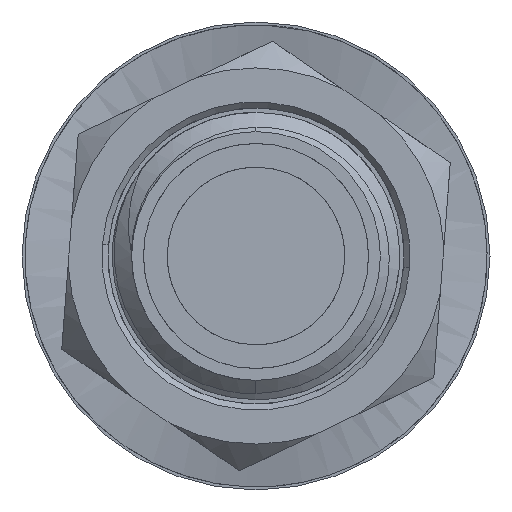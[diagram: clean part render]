
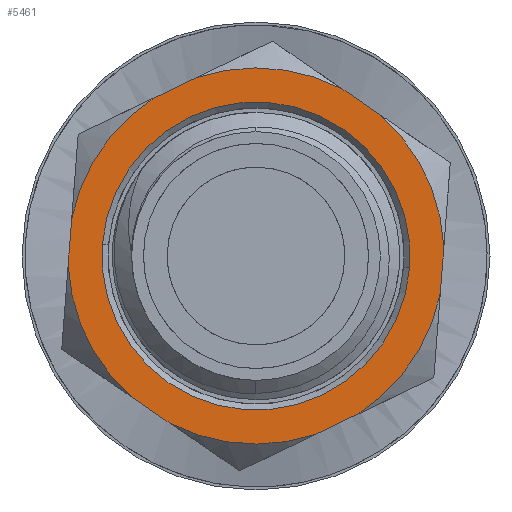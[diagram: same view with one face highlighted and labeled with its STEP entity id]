
A CAD part, front view. The second image highlights one B-rep face of the part: STEP entity #5461.
In plain terms, the highlighted planar face has unit normal (0, -1, 0) as drawn and (0, 0, -1) by its records, which use the part's own axes.
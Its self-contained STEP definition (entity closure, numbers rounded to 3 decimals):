
#77 = CARTESIAN_POINT ( 'NONE',  ( -1.919, 2.529, 0. ) ) ;
#109 = VERTEX_POINT ( 'NONE', #3463 ) ;
#121 = CARTESIAN_POINT ( 'NONE',  ( 0., 0., 0. ) ) ;
#129 = AXIS2_PLACEMENT_3D ( 'NONE', #752, #5970, #2398 ) ;
#260 = DIRECTION ( 'NONE',  ( 0., 0., 1. ) ) ;
#296 = CIRCLE ( 'NONE', #2696, 3.175 ) ;
#329 = DIRECTION ( 'NONE',  ( 1., 0., 0. ) ) ;
#356 = DIRECTION ( 'NONE',  ( 0., 0., -1. ) ) ;
#418 = VECTOR ( 'NONE', #5160, 1000. ) ;
#466 = CARTESIAN_POINT ( 'NONE',  ( 1.919, -2.529, 0. ) ) ;
#511 = ORIENTED_EDGE ( 'NONE', *, *, #2969, .F. ) ;
#544 = AXIS2_PLACEMENT_3D ( 'NONE', #3622, #1549, #2101 ) ;
#564 = CARTESIAN_POINT ( 'NONE',  ( -3.15, 1.819, 0. ) ) ;
#578 = PLANE ( 'NONE',  #4270 ) ;
#597 = CARTESIAN_POINT ( 'NONE',  ( 3.15, -1.819, 0. ) ) ;
#618 = EDGE_CURVE ( 'NONE', #5789, #2046, #4011, .T. ) ;
#752 = CARTESIAN_POINT ( 'NONE',  ( 0., 0., 0. ) ) ;
#795 = VERTEX_POINT ( 'NONE', #5455 ) ;
#866 = ORIENTED_EDGE ( 'NONE', *, *, #4825, .T. ) ;
#989 = LINE ( 'NONE', #3195, #4389 ) ;
#994 = DIRECTION ( 'NONE',  ( 0., -1., 0. ) ) ;
#1006 = FACE_OUTER_BOUND ( 'NONE', #5714, .T. ) ;
#1010 = ORIENTED_EDGE ( 'NONE', *, *, #4947, .T. ) ;
#1078 = DIRECTION ( 'NONE',  ( 1., 0., 0. ) ) ;
#1093 = DIRECTION ( 'NONE',  ( 0., 0., -1. ) ) ;
#1118 = EDGE_CURVE ( 'NONE', #6015, #795, #4774, .T. ) ;
#1187 = CARTESIAN_POINT ( 'NONE',  ( 0., 0., 0. ) ) ;
#1230 = DIRECTION ( 'NONE',  ( 1., 0., 0. ) ) ;
#1258 = EDGE_CURVE ( 'NONE', #109, #1301, #3033, .T. ) ;
#1301 = VERTEX_POINT ( 'NONE', #466 ) ;
#1482 = DIRECTION ( 'NONE',  ( 0.866, -0.5, 0. ) ) ;
#1527 = EDGE_CURVE ( 'NONE', #5735, #6500, #296, .T. ) ;
#1549 = DIRECTION ( 'NONE',  ( 0., 0., -1. ) ) ;
#1578 = LINE ( 'NONE', #564, #5962 ) ;
#1613 = CIRCLE ( 'NONE', #6289, 3.175 ) ;
#1688 = VERTEX_POINT ( 'NONE', #3927 ) ;
#1737 = EDGE_CURVE ( 'NONE', #2573, #6640, #1578, .T. ) ;
#1744 = EDGE_CURVE ( 'NONE', #109, #2046, #5229, .T. ) ;
#1774 = CARTESIAN_POINT ( 'NONE',  ( 0., 0., 0. ) ) ;
#1841 = CARTESIAN_POINT ( 'NONE',  ( -1.919, -2.529, 0. ) ) ;
#1911 = DIRECTION ( 'NONE',  ( -0.866, 0.5, 0. ) ) ;
#2027 = VERTEX_POINT ( 'NONE', #77 ) ;
#2031 = EDGE_CURVE ( 'NONE', #3176, #1688, #1613, .T. ) ;
#2039 = LINE ( 'NONE', #4603, #2730 ) ;
#2046 = VERTEX_POINT ( 'NONE', #2533 ) ;
#2101 = DIRECTION ( 'NONE',  ( 1., 0., 0. ) ) ;
#2179 = DIRECTION ( 'NONE',  ( 0., 0., 1. ) ) ;
#2198 = DIRECTION ( 'NONE',  ( 0., 0., -1. ) ) ;
#2320 = ORIENTED_EDGE ( 'NONE', *, *, #1118, .T. ) ;
#2398 = DIRECTION ( 'NONE',  ( 1., 0., 0. ) ) ;
#2407 = VERTEX_POINT ( 'NONE', #1841 ) ;
#2533 = CARTESIAN_POINT ( 'NONE',  ( 3.15, 0.398, 0. ) ) ;
#2573 = VERTEX_POINT ( 'NONE', #3673 ) ;
#2630 = CIRCLE ( 'NONE', #129, 2.6 ) ;
#2661 = DIRECTION ( 'NONE',  ( 1., 0., 0. ) ) ;
#2696 = AXIS2_PLACEMENT_3D ( 'NONE', #6587, #356, #3519 ) ;
#2730 = VECTOR ( 'NONE', #4016, 1000. ) ;
#2779 = CARTESIAN_POINT ( 'NONE',  ( -1.231, 2.927, 0. ) ) ;
#2817 = CARTESIAN_POINT ( 'NONE',  ( -3.15, -0.398, 0. ) ) ;
#2969 = EDGE_CURVE ( 'NONE', #2407, #1688, #6257, .T. ) ;
#2971 = ORIENTED_EDGE ( 'NONE', *, *, #4285, .F. ) ;
#2996 = CARTESIAN_POINT ( 'NONE',  ( 3.15, 1.819, 0. ) ) ;
#3033 = CIRCLE ( 'NONE', #6075, 3.175 ) ;
#3094 = FACE_BOUND ( 'NONE', #6062, .T. ) ;
#3176 = VERTEX_POINT ( 'NONE', #5299 ) ;
#3195 = CARTESIAN_POINT ( 'NONE',  ( 0., -3.637, 0. ) ) ;
#3237 = AXIS2_PLACEMENT_3D ( 'NONE', #1774, #2198, #3721 ) ;
#3316 = EDGE_CURVE ( 'NONE', #2573, #2027, #4027, .T. ) ;
#3463 = CARTESIAN_POINT ( 'NONE',  ( 3.15, -0.398, 0. ) ) ;
#3519 = DIRECTION ( 'NONE',  ( 1., 0., 0. ) ) ;
#3622 = CARTESIAN_POINT ( 'NONE',  ( 0., 0., 0. ) ) ;
#3666 = CARTESIAN_POINT ( 'NONE',  ( 0., 3.637, 0. ) ) ;
#3673 = CARTESIAN_POINT ( 'NONE',  ( -3.15, 0.398, 0. ) ) ;
#3721 = DIRECTION ( 'NONE',  ( 1., 0., 0. ) ) ;
#3816 = CARTESIAN_POINT ( 'NONE',  ( -2.6, 0., 0. ) ) ;
#3901 = DIRECTION ( 'NONE',  ( 1., 0., 0. ) ) ;
#3927 = CARTESIAN_POINT ( 'NONE',  ( -1.231, -2.927, 0. ) ) ;
#3936 = ORIENTED_EDGE ( 'NONE', *, *, #1527, .T. ) ;
#4011 = CIRCLE ( 'NONE', #3237, 3.175 ) ;
#4016 = DIRECTION ( 'NONE',  ( -0.866, -0.5, 0. ) ) ;
#4027 = CIRCLE ( 'NONE', #544, 3.175 ) ;
#4061 = LINE ( 'NONE', #2996, #6530 ) ;
#4086 = CARTESIAN_POINT ( 'NONE',  ( 0., 0., 0. ) ) ;
#4215 = ORIENTED_EDGE ( 'NONE', *, *, #1737, .F. ) ;
#4270 = AXIS2_PLACEMENT_3D ( 'NONE', #3666, #2179, #1078 ) ;
#4285 = EDGE_CURVE ( 'NONE', #5789, #6500, #4061, .T. ) ;
#4320 = ORIENTED_EDGE ( 'NONE', *, *, #1258, .T. ) ;
#4389 = VECTOR ( 'NONE', #5872, 1000. ) ;
#4471 = ORIENTED_EDGE ( 'NONE', *, *, #3316, .T. ) ;
#4603 = CARTESIAN_POINT ( 'NONE',  ( 0., 3.637, 0. ) ) ;
#4643 = CARTESIAN_POINT ( 'NONE',  ( 0., 0., 0. ) ) ;
#4676 = VECTOR ( 'NONE', #1482, 1000. ) ;
#4774 = CIRCLE ( 'NONE', #6621, 2.6 ) ;
#4825 = EDGE_CURVE ( 'NONE', #2407, #6640, #6317, .T. ) ;
#4928 = ORIENTED_EDGE ( 'NONE', *, *, #1744, .F. ) ;
#4947 = EDGE_CURVE ( 'NONE', #795, #6015, #2630, .T. ) ;
#4998 = DIRECTION ( 'NONE',  ( 0., 0., -1. ) ) ;
#5160 = DIRECTION ( 'NONE',  ( 0., 1., 0. ) ) ;
#5229 = LINE ( 'NONE', #597, #418 ) ;
#5276 = EDGE_CURVE ( 'NONE', #5735, #2027, #2039, .T. ) ;
#5299 = CARTESIAN_POINT ( 'NONE',  ( 1.231, -2.927, 0. ) ) ;
#5408 = ORIENTED_EDGE ( 'NONE', *, *, #5980, .F. ) ;
#5455 = CARTESIAN_POINT ( 'NONE',  ( 2.6, 0., 0. ) ) ;
#5461 = ADVANCED_FACE ( 'NONE', ( #3094, #1006 ), #578, .F. ) ;
#5471 = ORIENTED_EDGE ( 'NONE', *, *, #2031, .T. ) ;
#5672 = AXIS2_PLACEMENT_3D ( 'NONE', #121, #5881, #1230 ) ;
#5691 = CARTESIAN_POINT ( 'NONE',  ( -3.15, -1.819, 0. ) ) ;
#5714 = EDGE_LOOP ( 'NONE', ( #4928, #4320, #5408, #5471, #511, #866, #4215, #4471, #6060, #3936, #2971, #6180 ) ) ;
#5735 = VERTEX_POINT ( 'NONE', #2779 ) ;
#5789 = VERTEX_POINT ( 'NONE', #6013 ) ;
#5872 = DIRECTION ( 'NONE',  ( 0.866, 0.5, 0. ) ) ;
#5881 = DIRECTION ( 'NONE',  ( 0., 0., -1. ) ) ;
#5962 = VECTOR ( 'NONE', #994, 1000. ) ;
#5970 = DIRECTION ( 'NONE',  ( 0., 0., 1. ) ) ;
#5980 = EDGE_CURVE ( 'NONE', #3176, #1301, #989, .T. ) ;
#6013 = CARTESIAN_POINT ( 'NONE',  ( 1.919, 2.529, 0. ) ) ;
#6015 = VERTEX_POINT ( 'NONE', #3816 ) ;
#6060 = ORIENTED_EDGE ( 'NONE', *, *, #5276, .F. ) ;
#6062 = EDGE_LOOP ( 'NONE', ( #2320, #1010 ) ) ;
#6075 = AXIS2_PLACEMENT_3D ( 'NONE', #4086, #4998, #329 ) ;
#6180 = ORIENTED_EDGE ( 'NONE', *, *, #618, .T. ) ;
#6257 = LINE ( 'NONE', #5691, #4676 ) ;
#6289 = AXIS2_PLACEMENT_3D ( 'NONE', #4643, #1093, #2661 ) ;
#6317 = CIRCLE ( 'NONE', #5672, 3.175 ) ;
#6458 = CARTESIAN_POINT ( 'NONE',  ( 1.231, 2.927, 0. ) ) ;
#6500 = VERTEX_POINT ( 'NONE', #6458 ) ;
#6530 = VECTOR ( 'NONE', #1911, 1000. ) ;
#6587 = CARTESIAN_POINT ( 'NONE',  ( 0., 0., 0. ) ) ;
#6621 = AXIS2_PLACEMENT_3D ( 'NONE', #1187, #260, #3901 ) ;
#6640 = VERTEX_POINT ( 'NONE', #2817 ) ;
